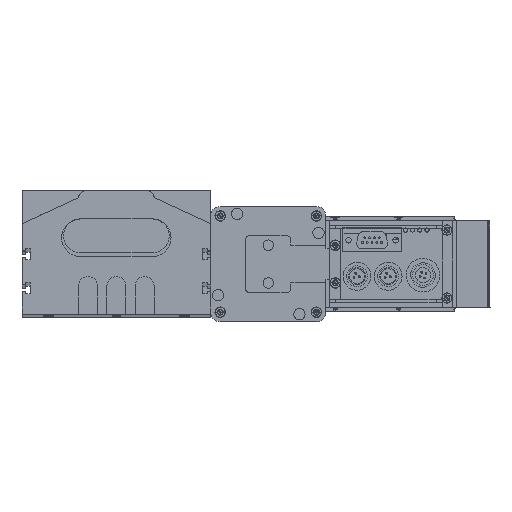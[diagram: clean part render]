
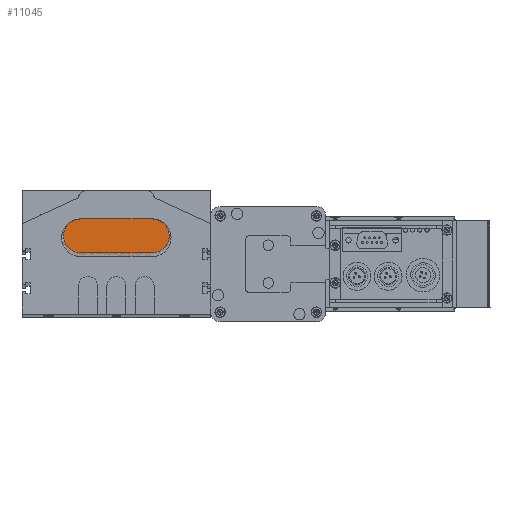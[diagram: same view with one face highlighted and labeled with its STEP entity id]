
A CAD part, top view. The second image highlights one B-rep face of the part: STEP entity #11045.
In plain terms, the highlighted planar face has unit normal (0, 0, 1).
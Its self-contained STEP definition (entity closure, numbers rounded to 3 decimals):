
#272 = ORIENTED_EDGE ( 'NONE', *, *, #11065, .T. ) ;
#276 = ORIENTED_EDGE ( 'NONE', *, *, #11033, .T. ) ;
#10701 = EDGE_CURVE ( 'NONE', #10782, #10776, #29926, .T. ) ;
#10776 = VERTEX_POINT ( 'NONE', #30077 ) ;
#10782 = VERTEX_POINT ( 'NONE', #30074 ) ;
#10834 = VERTEX_POINT ( 'NONE', #30196 ) ;
#10852 = EDGE_CURVE ( 'NONE', #10834, #10782, #30250, .T. ) ;
#10920 = VERTEX_POINT ( 'NONE', #30372 ) ;
#10923 = EDGE_CURVE ( 'NONE', #10776, #10957, #30368, .T. ) ;
#10957 = VERTEX_POINT ( 'NONE', #30383 ) ;
#11014 = EDGE_LOOP ( 'NONE', ( #11036, #11038, #11050, #276, #272 ) ) ;
#11033 = EDGE_CURVE ( 'NONE', #10957, #10920, #30541, .T. ) ;
#11036 = ORIENTED_EDGE ( 'NONE', *, *, #10852, .T. ) ;
#11038 = ORIENTED_EDGE ( 'NONE', *, *, #10701, .T. ) ;
#11045 = ADVANCED_FACE ( 'NONE', ( #30569 ), #30562, .T. ) ;
#11050 = ORIENTED_EDGE ( 'NONE', *, *, #10923, .T. ) ;
#11065 = EDGE_CURVE ( 'NONE', #10920, #10834, #30603, .T. ) ;
#29926 = CIRCLE ( 'NONE', #30035, 10. ) ;
#30032 = DIRECTION ( 'NONE',  ( 1., 0., 0. ) ) ;
#30033 = DIRECTION ( 'NONE',  ( 0., 0., 1. ) ) ;
#30034 = CARTESIAN_POINT ( 'NONE',  ( 0., 10., 10. ) ) ;
#30035 = AXIS2_PLACEMENT_3D ( 'NONE', #30034, #30033, #30032 ) ;
#30074 = CARTESIAN_POINT ( 'NONE',  ( -10., 10., 10. ) ) ;
#30077 = CARTESIAN_POINT ( 'NONE',  ( 0., 0., 10. ) ) ;
#30196 = CARTESIAN_POINT ( 'NONE',  ( 0., 20., 10. ) ) ;
#30223 = AXIS2_PLACEMENT_3D ( 'NONE', #30279, #30278, #30277 ) ;
#30250 = CIRCLE ( 'NONE', #30223, 10. ) ;
#30277 = DIRECTION ( 'NONE',  ( 1., 0., 0. ) ) ;
#30278 = DIRECTION ( 'NONE',  ( 0., 0., 1. ) ) ;
#30279 = CARTESIAN_POINT ( 'NONE',  ( 0., 10., 10. ) ) ;
#30365 = DIRECTION ( 'NONE',  ( 1., 0., 0. ) ) ;
#30366 = VECTOR ( 'NONE', #30365, 1000. ) ;
#30367 = CARTESIAN_POINT ( 'NONE',  ( 0., 0., 10. ) ) ;
#30368 = LINE ( 'NONE', #30367, #30366 ) ;
#30372 = CARTESIAN_POINT ( 'NONE',  ( 38., 20., 10. ) ) ;
#30383 = CARTESIAN_POINT ( 'NONE',  ( 38., 0., 10. ) ) ;
#30524 = DIRECTION ( 'NONE',  ( 0., 0., 1. ) ) ;
#30528 = DIRECTION ( 'NONE',  ( -1., 0., 0. ) ) ;
#30529 = AXIS2_PLACEMENT_3D ( 'NONE', #30545, #30524, #30528 ) ;
#30541 = CIRCLE ( 'NONE', #30529, 10. ) ;
#30545 = CARTESIAN_POINT ( 'NONE',  ( 38., 10., 10. ) ) ;
#30552 = DIRECTION ( 'NONE',  ( 1., 0., 0. ) ) ;
#30558 = AXIS2_PLACEMENT_3D ( 'NONE', #30561, #30573, #30552 ) ;
#30561 = CARTESIAN_POINT ( 'NONE',  ( 0., 10., 10. ) ) ;
#30562 = PLANE ( 'NONE',  #30558 ) ;
#30569 = FACE_OUTER_BOUND ( 'NONE', #11014, .T. ) ;
#30573 = DIRECTION ( 'NONE',  ( 0., 0., 1. ) ) ;
#30579 = VECTOR ( 'NONE', #30585, 1000. ) ;
#30585 = DIRECTION ( 'NONE',  ( -1., 0., 0. ) ) ;
#30586 = CARTESIAN_POINT ( 'NONE',  ( 0., 20., 10. ) ) ;
#30603 = LINE ( 'NONE', #30586, #30579 ) ;
